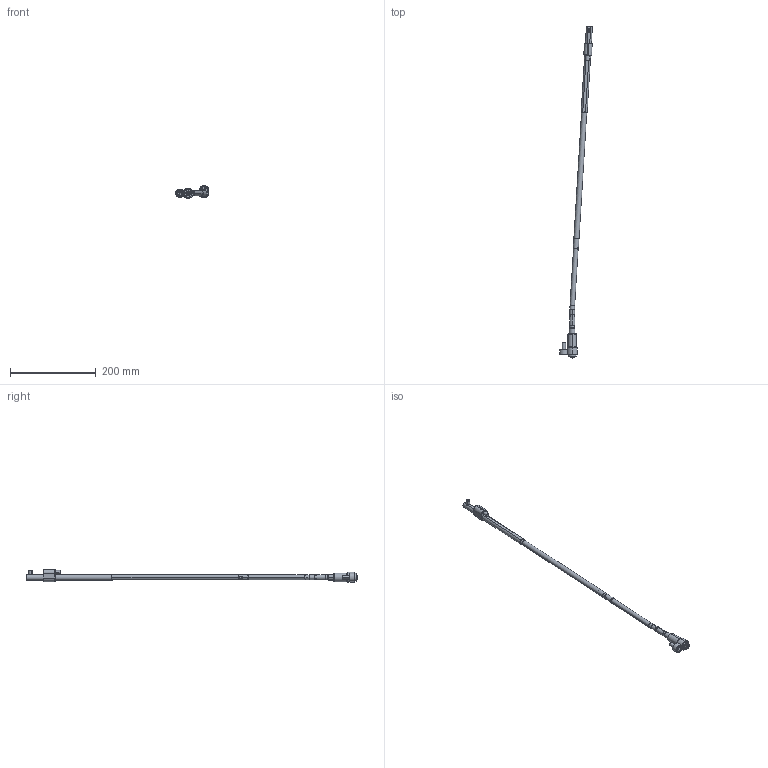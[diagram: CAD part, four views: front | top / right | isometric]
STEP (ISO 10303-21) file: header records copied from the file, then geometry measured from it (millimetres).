
FILE_DESCRIPTION (( 'STEP AP214' ), '1' );
FILE_NAME ('WL120125-EJE 3,5°.STEP', '2021-03-19T15:38:07', ( '' ), ( '' ), 'SwSTEP 2.0', 'SolidWorks 2019', '' );
FILE_SCHEMA (( 'AUTOMOTIVE_DESIGN' ));
Length unit declared in the file: millimetre
Products named in the file (17): 1DIN912820_DIN 912 M8 x 20 --- 20C; WL120125-EJE 3,5°; WL120100-D; Web-WL12-F01; Web-WL12-A2; Web-WL12-F00.SLDPRT; Web-WL12-A8; WL120100-E; Web-WL12-XX_ON-WL120125-3,5; 9DR2808-TOR; 8WL12EJEP; Web-WL12-A1; 3IMAN5X3-150_con sellador; WL120100-B; WL120100-B1; 1DIN912645_DIN 912 M6 x 45 --- 45C; Web-WL12-A3
Assembly tree (16 placements, depth 3):
  WL120125-EJE 3,5°
    Web-WL12-A8
    Web-WL12-XX_ON-WL120125-3,5
    Web-WL12-A3
    Web-WL12-A2
    Web-WL12-A1
    Web-WL12-F00.SLDPRT
      Web-WL12-F01
      1DIN912820_DIN 912 M8 x 20 --- 20C
      1DIN912645_DIN 912 M6 x 45 --- 45C
    WL120100-D
    8WL12EJEP
    WL120100-E
    9DR2808-TOR
    WL120100-B
      WL120100-B1
      3IMAN5X3-150_con sellador
Bounding box: 76.3 x 772.19 x 29.9 mm (x, y, z)
Volume: 116547.9 mm3; surface area: 51029.8 mm2
Topology: 15 solids, 15 shells, 432 faces, 906 edges, 525 vertices
Faces by surface type: plane 139, cylinder 123, cone 120, torus 50
Entity records: 13661 total; most frequent: DIRECTION 2240, CARTESIAN_POINT 2104, ORIENTED_EDGE 1788, AXIS2_PLACEMENT_3D 929, EDGE_CURVE 894, VERTEX_POINT 525, EDGE_LOOP 477, CIRCLE 476
